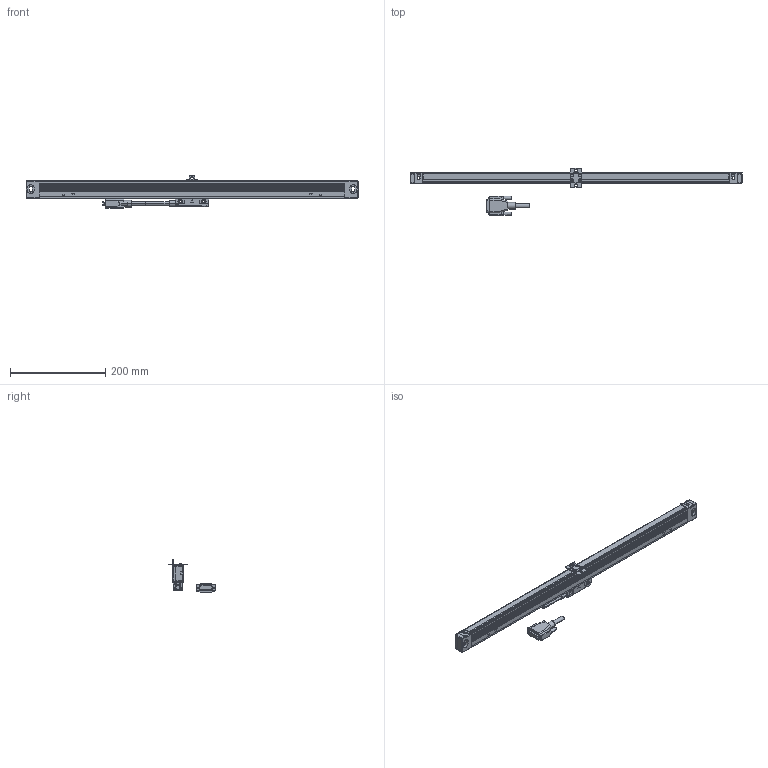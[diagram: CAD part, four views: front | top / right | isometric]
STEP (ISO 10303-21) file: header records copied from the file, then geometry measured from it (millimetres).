
FILE_DESCRIPTION(('Creo Elements/Direct Modeling STEP Export'),'2;1');
FILE_NAME('AT715-500_営業送付.stp','2018-12-20T15:24:52',(''),(''),'Creo Elements/Direct Modeling STEP processor for AP214 (Solid Model)','Creo Elements/Direct Modeling 18.1B 29-Sep-2012 (C) Parametric Technology GmbH','');
FILE_SCHEMA(('AUTOMOTIVE_DESIGN { 1 0 10303 214 1 1 1 1 }'));
Length unit declared in the file: millimetre
Products named in the file (6): DetectorHead; Scale_500.1; Scale_500.2; Connector; Scale_500.3; AT715-500
Assembly tree (5 placements, depth 2):
  AT715-500
    Scale_500.3
    Connector
    Scale_500.2
    Scale_500.1
    DetectorHead
Bounding box: 698 x 99 x 68.35 mm (x, y, z)
Volume: 1524687.8 mm3; surface area: 331269.6 mm2
Topology: 5 solids, 10 shells, 1425 faces, 3729 edges, 2357 vertices
Faces by surface type: plane 891, cylinder 424, cone 44, extrusion 32, torus 18, sphere 12, bspline 4
Entity records: 43367 total; most frequent: CARTESIAN_POINT 8754, ORIENTED_EDGE 7434, DIRECTION 6631, EDGE_CURVE 3717, VECTOR 2411, LINE 2379, VERTEX_POINT 2357, AXIS2_PLACEMENT_3D 2110
